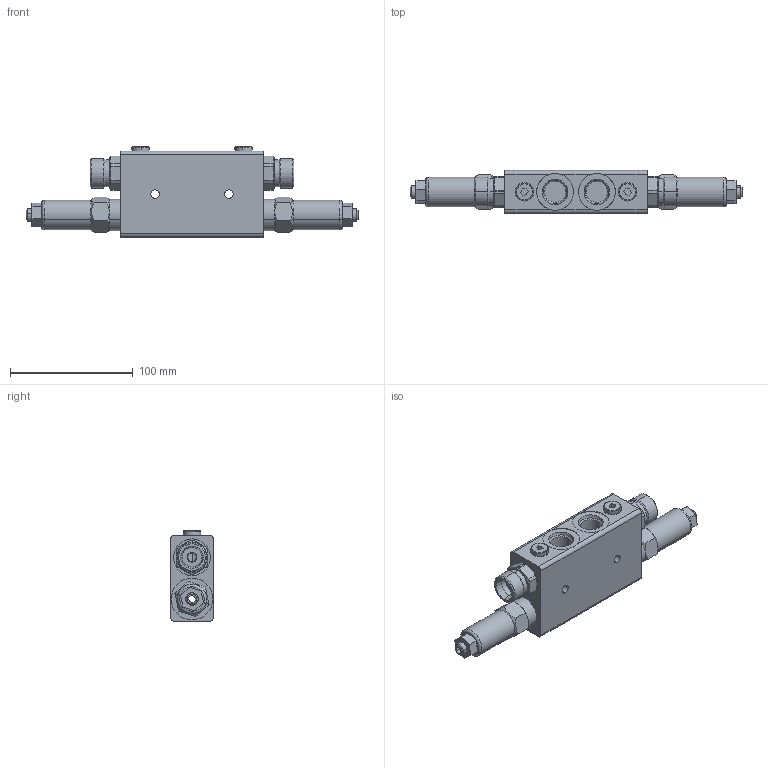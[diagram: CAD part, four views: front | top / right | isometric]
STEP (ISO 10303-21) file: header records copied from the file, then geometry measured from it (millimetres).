
FILE_DESCRIPTION (( 'STEP AP214' ), '1' );
FILE_NAME ('VCD34001.STEP', '2025-05-14T00:54:31', ( '' ), ( '' ), 'SwSTEP 2.0', 'SolidWorks 2023', '' );
FILE_SCHEMA (( 'AUTOMOTIVE_DESIGN' ));
Length unit declared in the file: millimetre
Products named in the file (1): VCD34001
Bounding box: 270.65 x 35 x 73.5 mm (x, y, z)
Surface area: 51397.8 mm2 (no closed solid volume)
Topology: 0 solids, 11 shells, 226 faces, 568 edges, 362 vertices
Faces by surface type: plane 90, cylinder 70, cone 50, torus 16
Entity records: 7342 total; most frequent: CARTESIAN_POINT 1897, DIRECTION 1196, ORIENTED_EDGE 1030, EDGE_CURVE 568, AXIS2_PLACEMENT_3D 469, VERTEX_POINT 362, VECTOR 258, LINE 258
